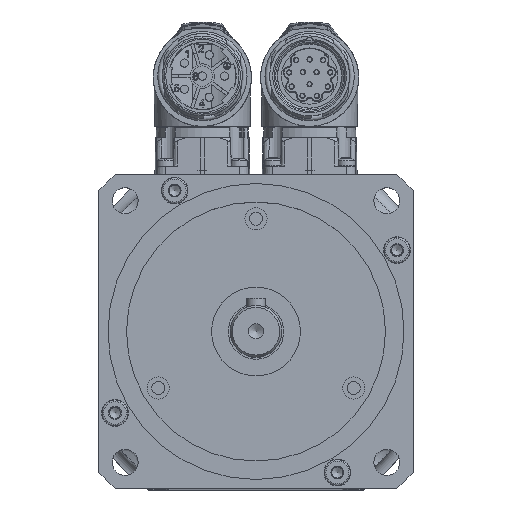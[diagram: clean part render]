
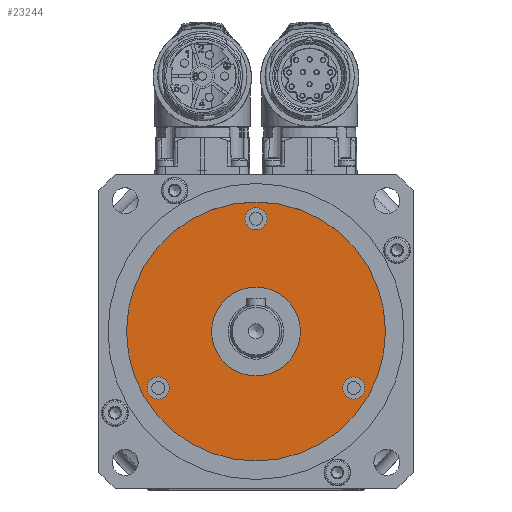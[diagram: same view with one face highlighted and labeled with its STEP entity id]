
A CAD part, top view. The second image highlights one B-rep face of the part: STEP entity #23244.
In plain terms, the highlighted planar face has unit normal (0, 0, 1).
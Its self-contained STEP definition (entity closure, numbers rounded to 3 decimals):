
#5044=PLANE('',#24765);
#5600=FACE_BOUND('',#7595,.T.);
#5601=FACE_BOUND('',#7596,.T.);
#5602=FACE_BOUND('',#7597,.T.);
#5603=FACE_BOUND('',#7598,.T.);
#5604=FACE_BOUND('',#7599,.T.);
#7595=EDGE_LOOP('',(#16316));
#7596=EDGE_LOOP('',(#16317));
#7597=EDGE_LOOP('',(#16318));
#7598=EDGE_LOOP('',(#16319));
#7599=EDGE_LOOP('',(#16320));
#9491=CIRCLE('',#24695,3.);
#9495=CIRCLE('',#24702,3.);
#9499=CIRCLE('',#24709,3.);
#9501=CIRCLE('',#24713,12.);
#9532=CIRCLE('',#24766,35.);
#10597=VERTEX_POINT('',#33326);
#10601=VERTEX_POINT('',#33337);
#10605=VERTEX_POINT('',#33348);
#10607=VERTEX_POINT('',#33354);
#10645=VERTEX_POINT('',#33456);
#12956=EDGE_CURVE('',#10597,#10597,#9491,.T.);
#12960=EDGE_CURVE('',#10601,#10601,#9495,.T.);
#12964=EDGE_CURVE('',#10605,#10605,#9499,.T.);
#12966=EDGE_CURVE('',#10607,#10607,#9501,.T.);
#13008=EDGE_CURVE('',#10645,#10645,#9532,.T.);
#16316=ORIENTED_EDGE('',*,*,#12956,.T.);
#16317=ORIENTED_EDGE('',*,*,#12960,.T.);
#16318=ORIENTED_EDGE('',*,*,#12964,.T.);
#16319=ORIENTED_EDGE('',*,*,#12966,.T.);
#16320=ORIENTED_EDGE('',*,*,#13008,.F.);
#23244=ADVANCED_FACE('',(#5600,#5601,#5602,#5603,#5604),#5044,.F.);
#24695=AXIS2_PLACEMENT_3D('',#33327,#27218,#27219);
#24702=AXIS2_PLACEMENT_3D('',#33338,#27232,#27233);
#24709=AXIS2_PLACEMENT_3D('',#33349,#27246,#27247);
#24713=AXIS2_PLACEMENT_3D('',#33355,#27254,#27255);
#24765=AXIS2_PLACEMENT_3D('',#33455,#27369,#27370);
#24766=AXIS2_PLACEMENT_3D('',#33457,#27371,#27372);
#27218=DIRECTION('center_axis',(0.,0.,-1.));
#27219=DIRECTION('ref_axis',(-0.5,0.866,0.));
#27232=DIRECTION('center_axis',(0.,0.,-1.));
#27233=DIRECTION('ref_axis',(-0.5,-0.866,0.));
#27246=DIRECTION('center_axis',(0.,0.,-1.));
#27247=DIRECTION('ref_axis',(1.,0.,0.));
#27254=DIRECTION('center_axis',(0.,0.,-1.));
#27255=DIRECTION('ref_axis',(-1.,0.,0.));
#27369=DIRECTION('center_axis',(0.,0.,-1.));
#27370=DIRECTION('ref_axis',(-1.,0.,0.));
#27371=DIRECTION('center_axis',(0.,0.,-1.));
#27372=DIRECTION('ref_axis',(-1.,0.,0.));
#33326=CARTESIAN_POINT('',(-27.914,-12.652,-0.5));
#33327=CARTESIAN_POINT('Origin',(-26.414,-15.25,-0.5));
#33337=CARTESIAN_POINT('',(24.914,-17.848,-0.5));
#33338=CARTESIAN_POINT('Origin',(26.414,-15.25,-0.5));
#33348=CARTESIAN_POINT('',(3.,30.5,-0.5));
#33349=CARTESIAN_POINT('Origin',(0.,30.5,-0.5));
#33354=CARTESIAN_POINT('',(12.,0.,-0.5));
#33355=CARTESIAN_POINT('Origin',(0.,0.,-0.5));
#33455=CARTESIAN_POINT('Origin',(0.,0.,
-0.5));
#33456=CARTESIAN_POINT('',(35.,0.,-0.5));
#33457=CARTESIAN_POINT('Origin',(0.,0.,-0.5));
